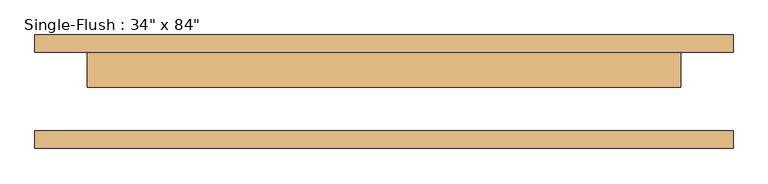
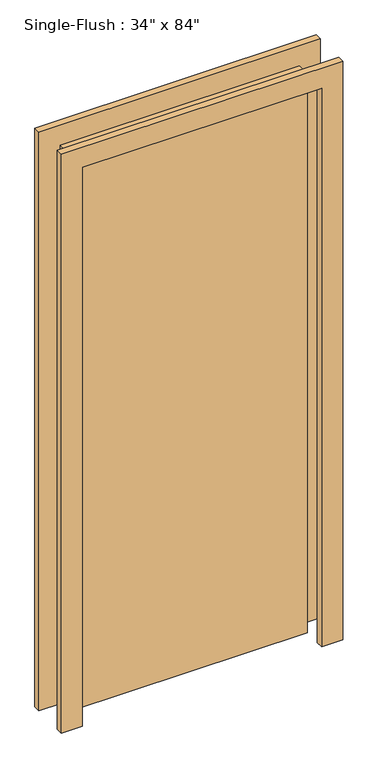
"""IFC4 building model written with IfcOpenShell, lengths in millimetres: door geometry."""

from ifc_helpers import new_model, si_unit, frame, origin, origin_with_axes, place, context, project, spatial, polyline, outline, extrude, source, transform, mapped, element, save


def door_70e57c00(model_context):
    return source(origin(), model_context, "Body", "SweptSolid", [
        extrude(outline(polyline([(2209.8, -508.0), (0.0, -508.0), (0.0, -431.8), (2133.6, -431.8), (2133.6, 431.8), (0.0, 431.8), (0.0, 508.0), (2209.8, 508.0), (2209.8, -508.0)])), frame((0.0, 57.15, 0.0), z_axis=(0.0, 1.0, 0.0), x_axis=(0.0, 0.0, 1.0)), (0.0, 0.0, 1.0), 25.4),
        extrude(outline(polyline([(2209.8, 508.0), (2209.8, -508.0), (0.0, -508.0), (0.0, -431.8), (2133.6, -431.8), (2133.6, 431.8), (0.0, 431.8), (0.0, 508.0), (2209.8, 508.0)])), frame((0.0, -82.55, 0.0), z_axis=(0.0, 1.0, 0.0), x_axis=(0.0, 0.0, 1.0)), (0.0, 0.0, 1.0), 25.4),
        extrude(outline(polyline([(431.8, 6.35), (-431.8, 6.35), (-431.8, 57.15), (431.8, 57.15), (431.8, 6.35)])), origin_with_axes(), (0.0, 0.0, 1.0), 2133.6),
    ])


if __name__ == "__main__":
    model = new_model("IFC4")
    model_context = context("Model", 3, world=origin())
    ifc_project = project(units=[si_unit("LENGTHUNIT", "METRE", prefix="MILLI")], contexts=[model_context])
    site = spatial("IfcSite", under=ifc_project)
    building = spatial("IfcBuilding", under=site)
    placement = place(None, origin())
    door_shape = door_70e57c00(model_context)
    element("IfcDoor", 1, ObjectType="Single-Flush : 34\" x 84\"", at=placement, inside=building, context=model_context, shape_type="MappedRepresentation", body=[
        mapped(door_shape, transform((0.0, 0.0, 0.0), x_axis=(1.0, 0.0, 0.0), y_axis=(0.0, 1.0, 0.0), z_axis=(0.0, 0.0, 1.0))),
    ])
    save(model, "model.ifc")
